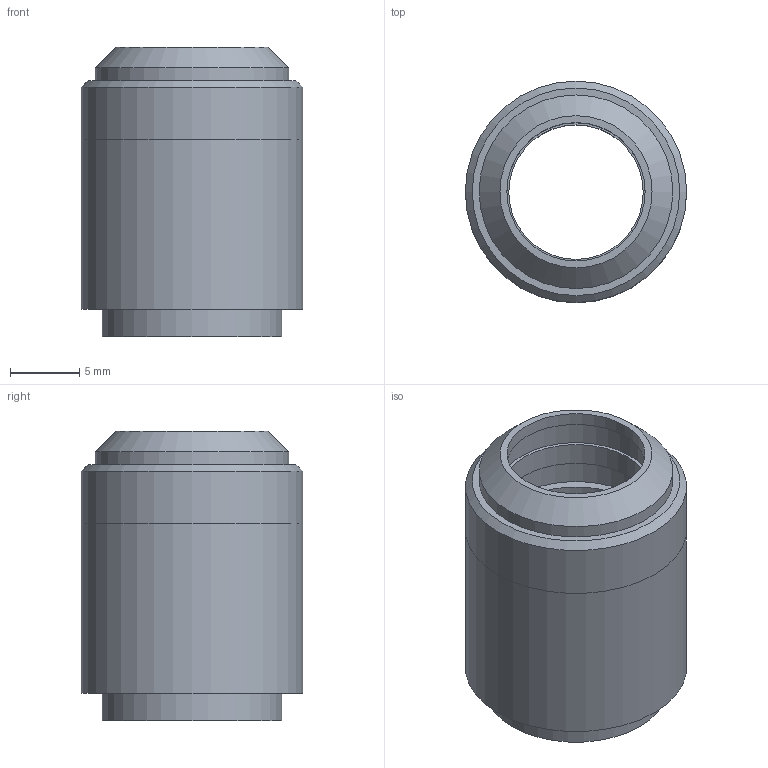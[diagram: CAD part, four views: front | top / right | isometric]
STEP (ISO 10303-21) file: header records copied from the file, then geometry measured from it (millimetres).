
FILE_DESCRIPTION(('FreeCAD Model'),'2;1');
FILE_NAME('/home/ae/Desktop/LensMech.step','2020-09-29T19:38:23',( 'Author'),(''),'Open CASCADE STEP processor 7.3','FreeCAD','Unknown' );
FILE_SCHEMA(('AUTOMOTIVE_DESIGN { 1 0 10303 214 1 1 1 1 }'));
Length unit declared in the file: millimetre
Products named in the file (6): Body; Body001; Body002; Body003; Body005; Body004
Bounding box: 16 x 16 x 20.94 mm (x, y, z)
Volume: 1889.5 mm3; surface area: 3413.7 mm2
Topology: 6 solids, 6 shells, 43 faces, 66 edges, 43 vertices
Faces by surface type: plane 20, cylinder 20, cone 3
Full cylindrical faces by diameter (mm): 9.72 x1, 10 x2, 10.5 x1, 10.68 x1, 11 x4, 12 x4, 13 x2, 14 x3, 16 x2
Entity records: 2049 total; most frequent: CARTESIAN_POINT 429, DIRECTION 305, ORIENTED_EDGE 132, PCURVE 132, DEFINITIONAL_REPRESENTATION 132, LINE 115, VECTOR 115, AXIS2_PLACEMENT_3D 87
